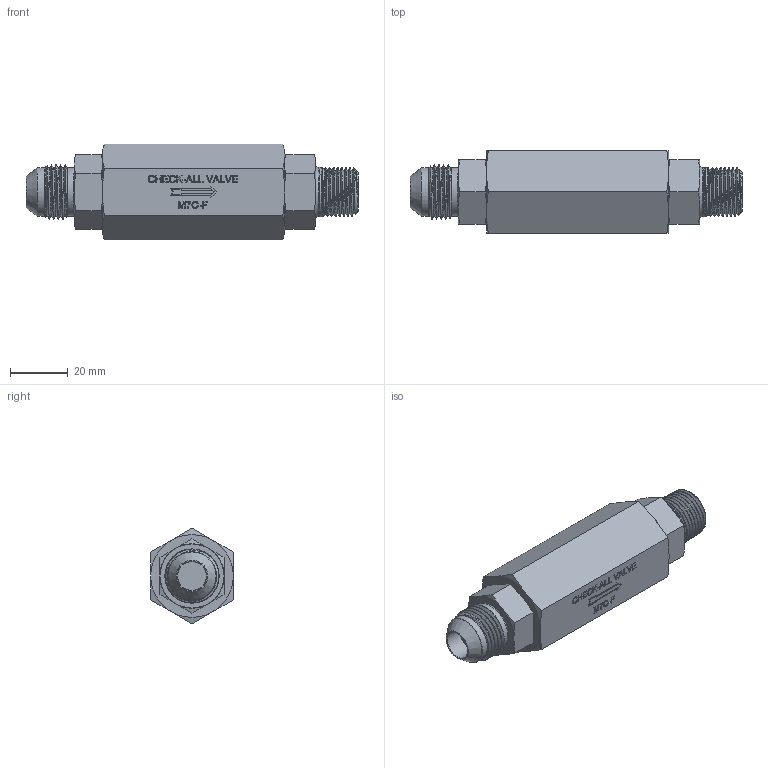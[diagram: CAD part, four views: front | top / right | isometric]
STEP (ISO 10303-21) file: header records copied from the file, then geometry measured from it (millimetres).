
FILE_DESCRIPTION( ( 'Unknown' ), '1' );
FILE_NAME( 'Y:/ENGR/3D Solid Edge Models/M(1-8)/M7/stp/M7C-F.stp', 'Unknown', ( 'Unknown' ), ( 'Unknown' ), 'PSStep 16.0.42', 'Unknown', ' ' );
FILE_SCHEMA( ( 'AUTOMOTIVE_DESIGN { 1 0 10303 214 1 1 1 1 }' ) );
Length unit declared in the file: millimetre
Products named in the file (1): 1
Bounding box: 114.76 x 28.57 x 33 mm (x, y, z)
Volume: 58129.3 mm3; surface area: 12180.9 mm2
Topology: 1 solids, 1 shells, 344 faces, 905 edges, 589 vertices
Faces by surface type: extrusion 152, plane 77, cone 43, cylinder 30, torus 25, bspline 17
Full cylindrical faces by diameter (mm): 9.931 x1, 10.319 x1, 16.739 x2, 17.145 x1
Entity records: 29099 total; most frequent: CARTESIAN_POINT 18175, ORIENTED_EDGE 1736, DIRECTION 1082, EDGE_CURVE 868, VERTEX_POINT 573, VECTOR 528, B_SPLINE_CURVE_WITH_KNOTS 522, PRESENTATION_STYLE_ASSIGNMENT 507
